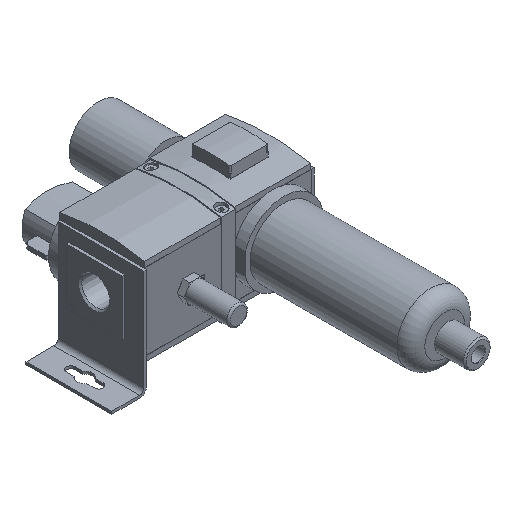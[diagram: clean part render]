
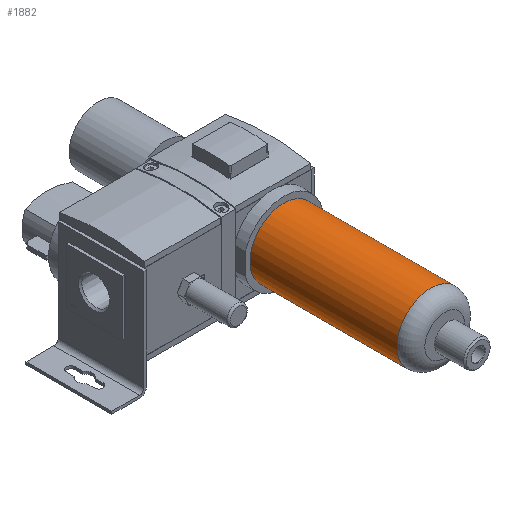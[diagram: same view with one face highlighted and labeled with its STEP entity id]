
A CAD part, isometric view. The second image highlights one B-rep face of the part: STEP entity #1882.
In plain terms, the highlighted cylindrical face has radius 24.25 mm (diameter 48.5 mm), a full revolution.
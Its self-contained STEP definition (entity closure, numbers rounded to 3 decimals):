
#1882 = ADVANCED_FACE( '', ( #3735, #3736 ), #3737, .T. );
#3735 = FACE_OUTER_BOUND( '', #5602, .T. );
#3736 = FACE_OUTER_BOUND( '', #5603, .T. );
#3737 = CYLINDRICAL_SURFACE( '', #5604, 24.25 );
#5602 = EDGE_LOOP( '', ( #10129 ) );
#5603 = EDGE_LOOP( '', ( #10130 ) );
#5604 = AXIS2_PLACEMENT_3D( '', #10131, #10132, #10133 );
#10129 = ORIENTED_EDGE( '', *, *, #11871, .F. );
#10130 = ORIENTED_EDGE( '', *, *, #12040, .T. );
#10131 = CARTESIAN_POINT( '', ( 0., -115.5, 0. ) );
#10132 = DIRECTION( '', ( 0., 1., 0. ) );
#10133 = DIRECTION( '', ( 0., 0., -1. ) );
#11871 = EDGE_CURVE( '', #14447, #14447, #14448, .T. );
#12040 = EDGE_CURVE( '', #14684, #14684, #14685, .T. );
#14447 = VERTEX_POINT( '', #18186 );
#14448 = CIRCLE( '', #18187, 24.25 );
#14684 = VERTEX_POINT( '', #18626 );
#14685 = CIRCLE( '', #18627, 24.25 );
#18186 = CARTESIAN_POINT( '', ( 0., -105.5, -24.25 ) );
#18187 = AXIS2_PLACEMENT_3D( '', #20994, #20995, #20996 );
#18626 = CARTESIAN_POINT( '', ( 0., 0., -24.25 ) );
#18627 = AXIS2_PLACEMENT_3D( '', #21144, #21145, #21146 );
#20994 = CARTESIAN_POINT( '', ( 0., -105.5, 0. ) );
#20995 = DIRECTION( '', ( 0., -1., 0. ) );
#20996 = DIRECTION( '', ( 0., 0., -1. ) );
#21144 = CARTESIAN_POINT( '', ( 0., 0., 0. ) );
#21145 = DIRECTION( '', ( 0., -1., 0. ) );
#21146 = DIRECTION( '', ( 0., 0., -1. ) );
